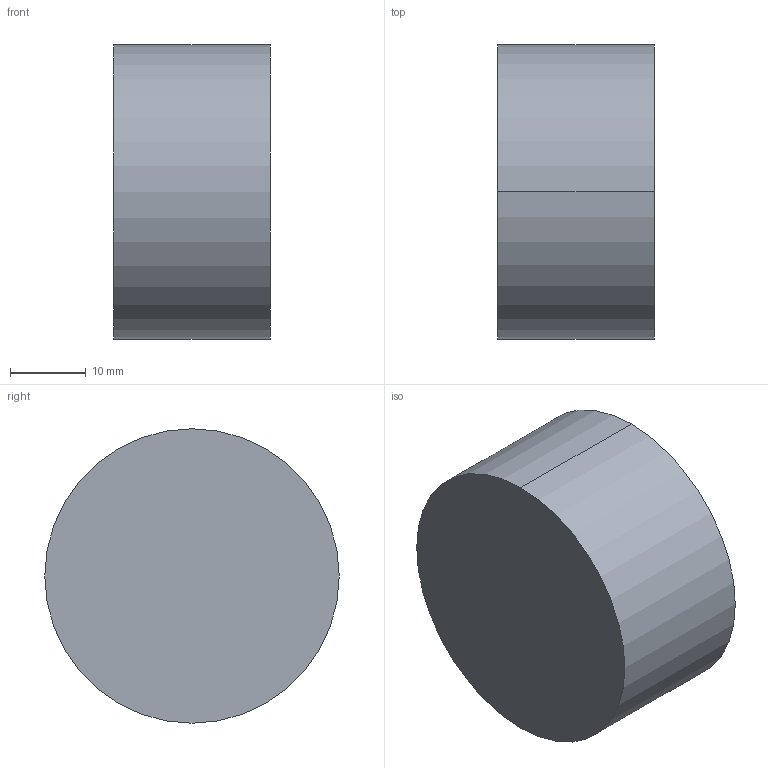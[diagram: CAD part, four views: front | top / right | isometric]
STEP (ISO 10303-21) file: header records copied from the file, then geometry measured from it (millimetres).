
FILE_DESCRIPTION (( 'STEP AP214' ), '1' );
FILE_NAME ('front-check-plug.STEP', '2012-12-27T18:18:45', ( '' ), ( '' ), 'SwSTEP 2.0', 'SolidWorks 2012', '' );
FILE_SCHEMA (( 'AUTOMOTIVE_DESIGN' ));
Length unit declared in the file: inch
Products named in the file (1): front-check-plug
Bounding box: 20.57 x 38.79 x 38.79 mm (x, y, z)
Volume: 23982 mm3; surface area: 5265.2 mm2
Topology: 1 solids, 1 shells, 16 faces, 30 edges, 20 vertices
Faces by surface type: cylinder 10, plane 6
Entity records: 493 total; most frequent: DIRECTION 84, CARTESIAN_POINT 67, ORIENTED_EDGE 60, AXIS2_PLACEMENT_3D 37, EDGE_CURVE 30, VERTEX_POINT 20, EDGE_LOOP 20, CIRCLE 20
